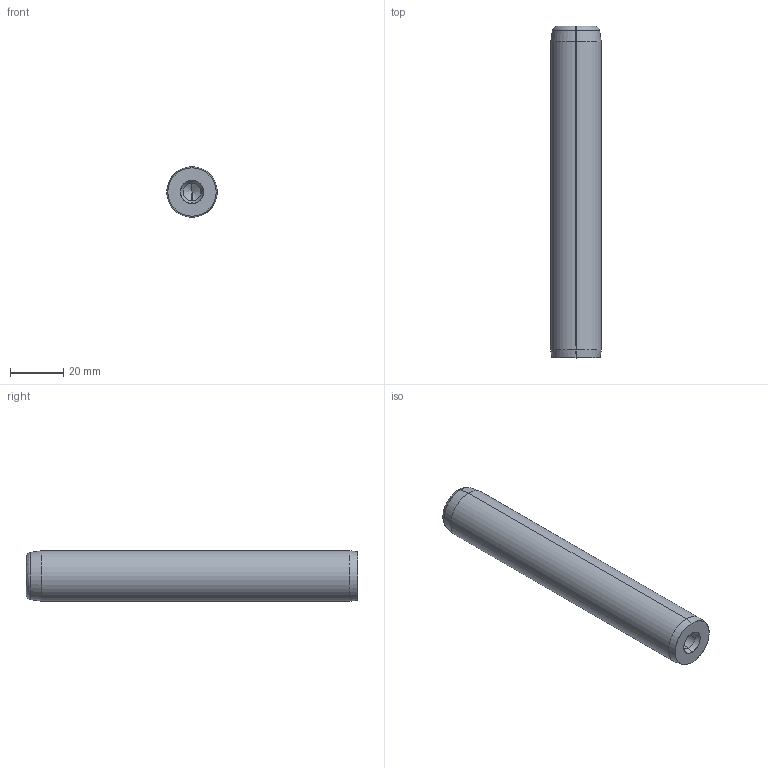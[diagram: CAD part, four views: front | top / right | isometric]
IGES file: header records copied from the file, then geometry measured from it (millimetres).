
Start section: SolidWorks IGES file using analytic representation for surfaces
Global section: file name: C:\Users\Dell\Desktop\deltakont\hatalýlar\D14\Ø19\D14_19125.IGS; native system: SolidWorks 2010; preprocessor: SolidWorks 2010; author: Dell; date: 111225.002702; units: metre
Bounding box: 19 x 125 x 19 mm (x, y, z)
Surface area: 9005.6 mm2 (no closed solid volume)
Topology: 0 solids, 0 shells, 22 faces, 208 edges, 204 vertices
Faces by surface type: revolution 18, bspline 4
